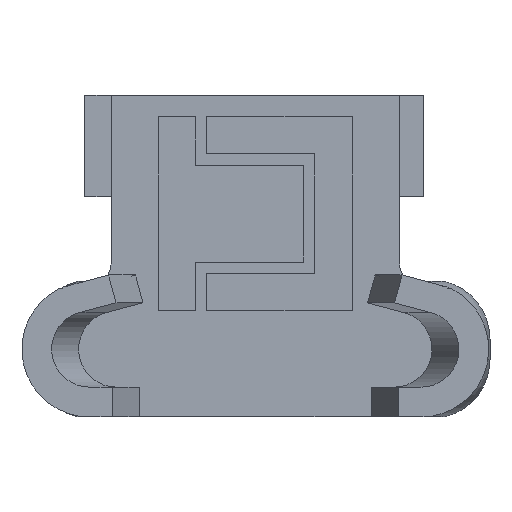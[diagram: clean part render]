
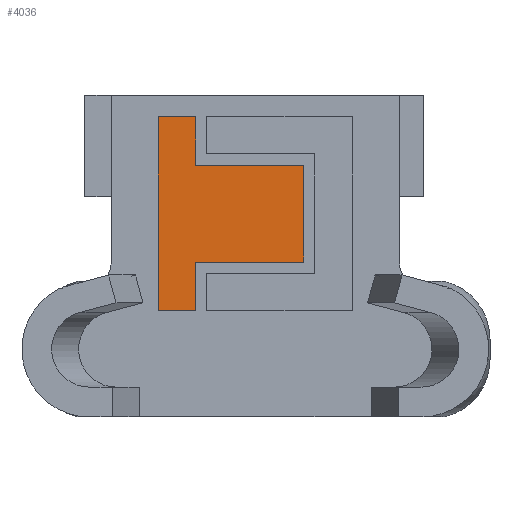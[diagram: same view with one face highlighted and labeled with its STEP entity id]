
A CAD part, left-side view. The second image highlights one B-rep face of the part: STEP entity #4036.
In plain terms, the highlighted planar face has unit normal (-1, 0, 0) as drawn and (1, 0, 0) by its records, which use the part's own axes.
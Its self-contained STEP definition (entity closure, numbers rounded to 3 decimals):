
#181 = CARTESIAN_POINT ( 'NONE',  ( 4.4, 9.143, -2.857 ) ) ;
#206 = ORIENTED_EDGE ( 'NONE', *, *, #3251, .T. ) ;
#229 = VECTOR ( 'NONE', #689, 1000. ) ;
#322 = DIRECTION ( 'NONE',  ( 0., -1., 0. ) ) ;
#371 = CARTESIAN_POINT ( 'NONE',  ( 4.4, 17.714, 3.523 ) ) ;
#504 = CARTESIAN_POINT ( 'NONE',  ( 4.4, 6.286, 3.523 ) ) ;
#528 = VERTEX_POINT ( 'NONE', #371 ) ;
#666 = VERTEX_POINT ( 'NONE', #812 ) ;
#689 = DIRECTION ( 'NONE',  ( 0., 1., 0. ) ) ;
#801 = VECTOR ( 'NONE', #1102, 1000. ) ;
#812 = CARTESIAN_POINT ( 'NONE',  ( 4.4, 6.286, 3.523 ) ) ;
#822 = VERTEX_POINT ( 'NONE', #181 ) ;
#915 = CARTESIAN_POINT ( 'NONE',  ( 4.4, 6.286, 5.714 ) ) ;
#1060 = VERTEX_POINT ( 'NONE', #4688 ) ;
#1066 = CARTESIAN_POINT ( 'NONE',  ( 4.4, 9.143, 3.523 ) ) ;
#1102 = DIRECTION ( 'NONE',  ( 0., 0., 1. ) ) ;
#1166 = CARTESIAN_POINT ( 'NONE',  ( 4.4, 14.857, -2.857 ) ) ;
#1358 = ORIENTED_EDGE ( 'NONE', *, *, #5757, .T. ) ;
#1533 = AXIS2_PLACEMENT_3D ( 'NONE', #3561, #5601, #4037 ) ;
#1614 = VECTOR ( 'NONE', #5895, 1000. ) ;
#1621 = VECTOR ( 'NONE', #3662, 1000. ) ;
#1928 = ORIENTED_EDGE ( 'NONE', *, *, #4967, .T. ) ;
#1943 = CARTESIAN_POINT ( 'NONE',  ( 4.4, 17.714, 3.523 ) ) ;
#1979 = LINE ( 'NONE', #504, #1621 ) ;
#1988 = VERTEX_POINT ( 'NONE', #2971 ) ;
#2178 = ORIENTED_EDGE ( 'NONE', *, *, #4937, .T. ) ;
#2385 = CARTESIAN_POINT ( 'NONE',  ( 4.4, 14.857, 3.523 ) ) ;
#2482 = VECTOR ( 'NONE', #322, 1000. ) ;
#2614 = LINE ( 'NONE', #1166, #801 ) ;
#2652 = ORIENTED_EDGE ( 'NONE', *, *, #2936, .T. ) ;
#2733 = ORIENTED_EDGE ( 'NONE', *, *, #6239, .T. ) ;
#2936 = EDGE_CURVE ( 'NONE', #4840, #666, #3800, .T. ) ;
#2971 = CARTESIAN_POINT ( 'NONE',  ( 4.4, 17.714, 5.714 ) ) ;
#3047 = DIRECTION ( 'NONE',  ( 0., 0., 1. ) ) ;
#3094 = VERTEX_POINT ( 'NONE', #5964 ) ;
#3144 = LINE ( 'NONE', #1066, #5785 ) ;
#3251 = EDGE_CURVE ( 'NONE', #528, #1988, #4482, .T. ) ;
#3278 = CARTESIAN_POINT ( 'NONE',  ( 4.4, 17.714, 5.714 ) ) ;
#3561 = CARTESIAN_POINT ( 'NONE',  ( 4.4, 0., 0. ) ) ;
#3610 = DIRECTION ( 'NONE',  ( 0., 0., -1. ) ) ;
#3662 = DIRECTION ( 'NONE',  ( 0., 1., 0. ) ) ;
#3752 = ORIENTED_EDGE ( 'NONE', *, *, #5588, .T. ) ;
#3767 = CARTESIAN_POINT ( 'NONE',  ( 4.4, 9.143, -2.857 ) ) ;
#3800 = LINE ( 'NONE', #6329, #6321 ) ;
#3907 = LINE ( 'NONE', #2385, #1614 ) ;
#4036 = ADVANCED_FACE ( 'NONE', ( #4133 ), #4063, .T. ) ;
#4037 = DIRECTION ( 'NONE',  ( 0., 0., -1. ) ) ;
#4063 = PLANE ( 'NONE',  #1533 ) ;
#4095 = CARTESIAN_POINT ( 'NONE',  ( 4.4, 14.857, -2.857 ) ) ;
#4133 = FACE_OUTER_BOUND ( 'NONE', #5422, .T. ) ;
#4160 = DIRECTION ( 'NONE',  ( 0., 0., -1. ) ) ;
#4334 = LINE ( 'NONE', #3767, #229 ) ;
#4482 = LINE ( 'NONE', #1943, #5049 ) ;
#4688 = CARTESIAN_POINT ( 'NONE',  ( 4.4, 9.143, 3.523 ) ) ;
#4840 = VERTEX_POINT ( 'NONE', #915 ) ;
#4937 = EDGE_CURVE ( 'NONE', #6245, #3094, #2614, .T. ) ;
#4967 = EDGE_CURVE ( 'NONE', #1060, #822, #3144, .T. ) ;
#5049 = VECTOR ( 'NONE', #3047, 1000. ) ;
#5422 = EDGE_LOOP ( 'NONE', ( #206, #1358, #2652, #2733, #1928, #6100, #2178, #3752 ) ) ;
#5423 = LINE ( 'NONE', #3278, #2482 ) ;
#5588 = EDGE_CURVE ( 'NONE', #3094, #528, #3907, .T. ) ;
#5601 = DIRECTION ( 'NONE',  ( 1., 0., 0. ) ) ;
#5757 = EDGE_CURVE ( 'NONE', #1988, #4840, #5423, .T. ) ;
#5785 = VECTOR ( 'NONE', #3610, 1000. ) ;
#5895 = DIRECTION ( 'NONE',  ( 0., 1., 0. ) ) ;
#5964 = CARTESIAN_POINT ( 'NONE',  ( 4.4, 14.857, 3.523 ) ) ;
#5965 = EDGE_CURVE ( 'NONE', #822, #6245, #4334, .T. ) ;
#6100 = ORIENTED_EDGE ( 'NONE', *, *, #5965, .T. ) ;
#6239 = EDGE_CURVE ( 'NONE', #666, #1060, #1979, .T. ) ;
#6245 = VERTEX_POINT ( 'NONE', #4095 ) ;
#6321 = VECTOR ( 'NONE', #4160, 1000. ) ;
#6329 = CARTESIAN_POINT ( 'NONE',  ( 4.4, 6.286, 5.714 ) ) ;
